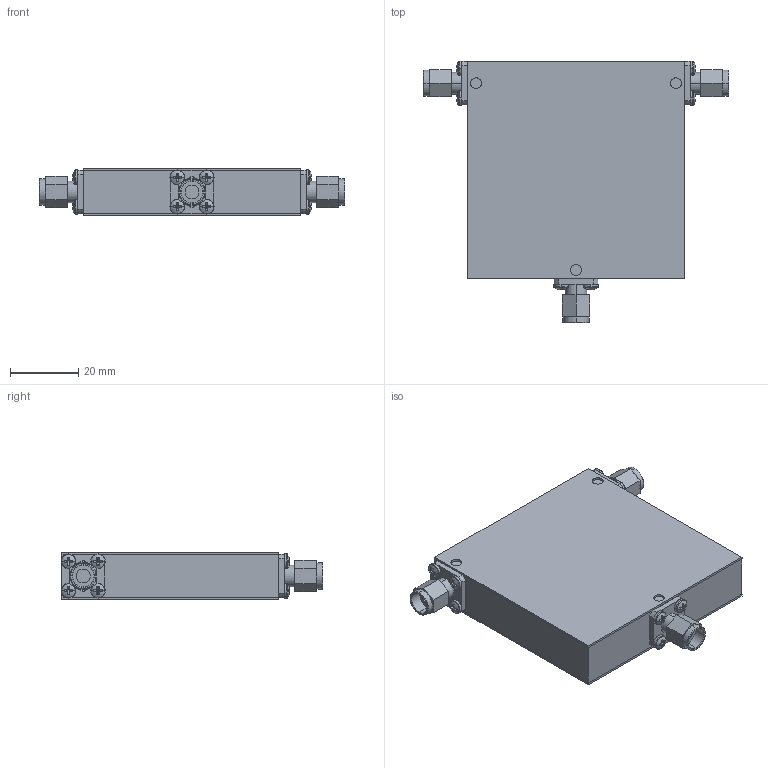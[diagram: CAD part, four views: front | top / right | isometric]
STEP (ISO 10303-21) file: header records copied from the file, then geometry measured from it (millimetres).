
FILE_DESCRIPTION (( 'STEP AP214' ), '1' );
FILE_NAME ('D3C1530-3 2.5x2.5x0.55 MMM.step', '2021-12-01T20:55:24', ( '' ), ( '' ), 'SwSTEP 2.0', 'SolidWorks 2016', '' );
FILE_SCHEMA (( 'AUTOMOTIVE_DESIGN' ));
Length unit declared in the file: inch
Products named in the file (5): D3C1530-3 2.5x2.5x0.55 MMM; D3I1525 2.5x2.5x0.55; Delta SMA-Male; pan cross head_ai_CR-PHMS 0.086-56x0.125x0.125-N; D3I1525 2.5x2.475x0.45
Assembly tree (17 placements, depth 2):
  D3C1530-3 2.5x2.5x0.55 MMM
    D3I1525 2.5x2.475x0.45
    D3I1525 2.5x2.5x0.55
    pan cross head_ai_CR-PHMS 0.086-56x0.125x0.125-N  x12
    Delta SMA-Male  x3
Bounding box: 89.26 x 76.47 x 13.97 mm (x, y, z)
Volume: 58191.4 mm3; surface area: 32632.8 mm2
Topology: 17 solids, 17 shells, 445 faces, 1014 edges, 624 vertices
Faces by surface type: plane 259, cylinder 120, torus 42, sphere 24
Entity records: 3248 total; most frequent: DIRECTION 584, CARTESIAN_POINT 504, ORIENTED_EDGE 472, EDGE_CURVE 236, AXIS2_PLACEMENT_3D 230, VERTEX_POINT 150, VECTOR 124, EDGE_LOOP 124
